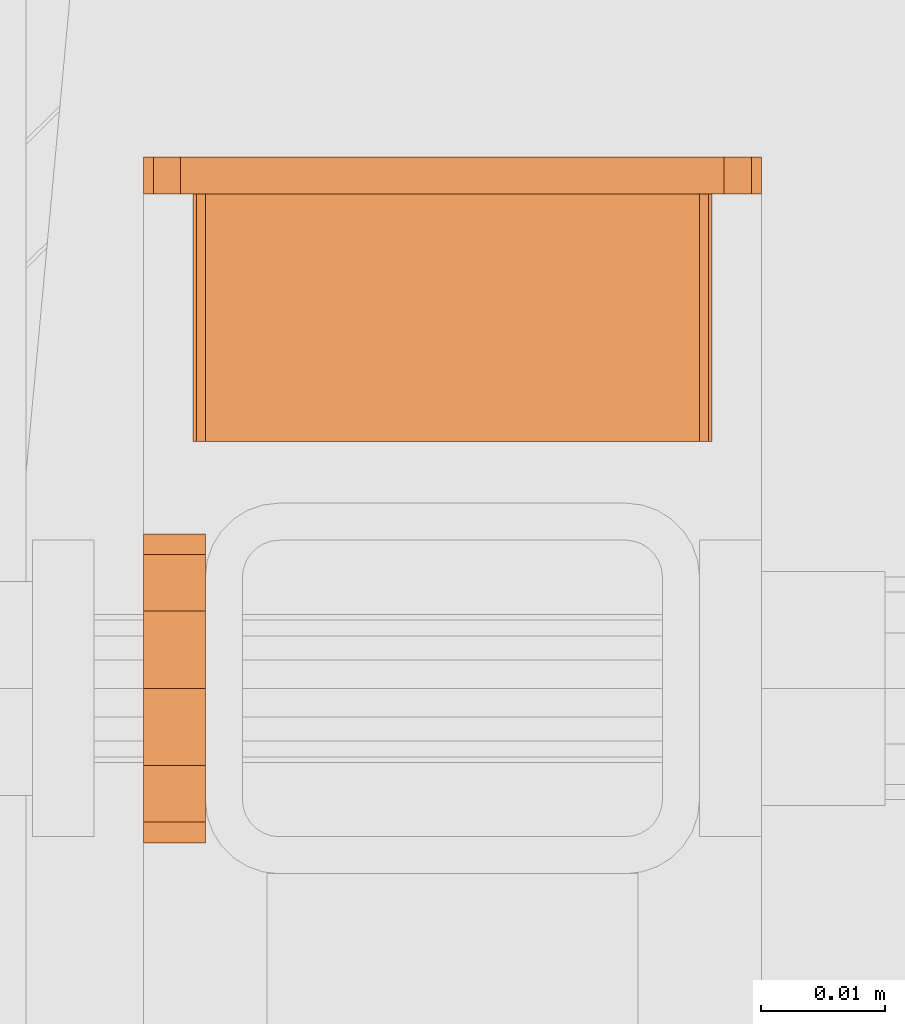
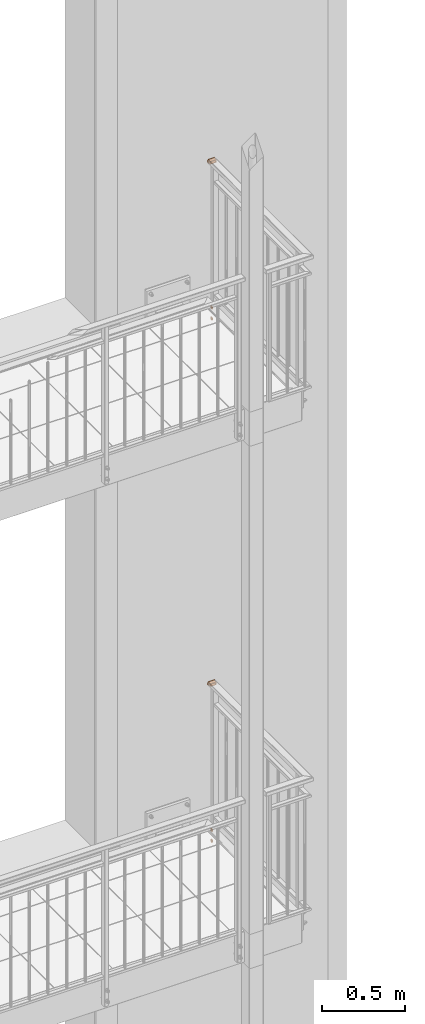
# One storey, part 145 of 162: 6 proxies.
"""IFC2X3 building model written with IfcOpenShell, lengths in millimetres."""

from ifc_helpers import new_model, entity, si_unit, converted_unit, origin_with_axes, place, context, project, spatial, faceted_brep, material, element, save


model = new_model("IFC2X3")

# Units and contexts
model_context = context("Model", 3, precision=1e-09, world=origin_with_axes())
ifc_project = project(units=[si_unit("LENGTHUNIT", "METRE", prefix="MILLI"), si_unit("AREAUNIT", "SQUARE_METRE"), si_unit("VOLUMEUNIT", "CUBIC_METRE"), converted_unit("PLANEANGLEUNIT", "DEGREE", entity("IfcPlaneAngleMeasure", 0.01745329), si_unit("PLANEANGLEUNIT", "RADIAN"), dimensions=[0, 0, 0, 0, 0, 0, 0])], contexts=[model_context])

# Site, building, storey
site_placement = place(None, origin_with_axes())
site = spatial("IfcSite", under=ifc_project, at=site_placement, Name="Hermannstra?e 1a, 60318 Frankfurt", CompositionType="ELEMENT")
building_placement = place(site_placement, origin_with_axes())
building = spatial("IfcBuilding", under=site, at=building_placement, Name="Struktur 1", CompositionType="ELEMENT")
storey_placement = place(building_placement, origin_with_axes())
storey = spatial("IfcBuildingStorey", under=building, at=storey_placement, Name="Default Storey", CompositionType="ELEMENT", Elevation=0.0)

# Proxies
ifc_material = material(Name="Kein")
proxy_1_placement = place(None, origin_with_axes())
element("IfcBuildingElementProxy", 1, at=proxy_1_placement, inside=storey, material=ifc_material, ObjectType="-", context=model_context, shape_type="Brep", body=[
    faceted_brep([(5869.30936482, 2650.609373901, 4949.0), (5869.30936482, 2650.609373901, 4931.0), (5869.30936482, 2670.609373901, 4931.0), (5869.30936482, 2670.609373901, 4949.0), (5869.041415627, 2670.609373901, 4950.0), (5869.041415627, 2650.609373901, 4950.0), (5868.30936482, 2650.609373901, 4950.732050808), (5868.30936482, 2670.609373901, 4950.732050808), (5867.30936482, 2670.609373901, 4951.0), (5867.30936482, 2650.609373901, 4951.0), (5869.041415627, 2650.609373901, 4930.0), (5869.041415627, 2670.609373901, 4930.0), (5868.30936482, 2650.609373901, 4929.267949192), (5868.30936482, 2670.609373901, 4929.267949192), (5829.30936482, 2650.609373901, 4951.0), (5828.30936482, 2650.609373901, 4950.732050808), (5827.577314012, 2650.609373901, 4950.0), (5827.30936482, 2650.609373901, 4949.0), (5827.30936482, 2650.609373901, 4931.0), (5827.577314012, 2650.609373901, 4930.0), (5828.30936482, 2650.609373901, 4929.267949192), (5829.30936482, 2650.609373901, 4929.0), (5867.30936482, 2650.609373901, 4929.0), (5865.30936482, 2650.609373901, 4947.0), (5865.30936482, 2650.609373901, 4933.0), (5831.30936482, 2650.609373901, 4933.0), (5831.30936482, 2650.609373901, 4947.0), (5867.30936482, 2670.609373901, 4929.0), (5829.30936482, 2670.609373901, 4929.0), (5828.30936482, 2670.609373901, 4929.267949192), (5827.577314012, 2670.609373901, 4930.0), (5827.30936482, 2670.609373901, 4931.0), (5827.30936482, 2670.609373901, 4949.0), (5827.577314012, 2670.609373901, 4950.0), (5828.30936482, 2670.609373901, 4950.732050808), (5829.30936482, 2670.609373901, 4951.0), (5865.30936482, 2670.609373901, 4947.0), (5865.30936482, 2670.609373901, 4933.0), (5831.30936482, 2670.609373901, 4933.0), (5831.30936482, 2670.609373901, 4947.0)], [[[0, 1, 2, 3]], [[0, 3, 4, 5]], [[6, 7, 8, 9]], [[5, 4, 7, 6]], [[2, 1, 10, 11]], [[11, 10, 12, 13]], [[5, 6, 9, 14, 15, 16, 17, 18, 19, 20, 21, 22, 12, 10, 1, 0], [23, 24, 25, 26]], [[3, 2, 11, 13, 27, 28, 29, 30, 31, 32, 33, 34, 35, 8, 7, 4]], [[34, 15, 14, 35]], [[14, 9, 8, 35]], [[36, 37, 24, 23]], [[15, 34, 33, 16]], [[13, 12, 22, 27]], [[25, 24, 37, 38]], [[22, 21, 28, 27]], [[28, 21, 20, 29]], [[39, 36, 23, 26]], [[16, 33, 32, 17]], [[29, 20, 19, 30]], [[26, 25, 38, 39]], [[18, 17, 32, 31]], [[30, 19, 18, 31]]]),
    faceted_brep([(5867.30936482, 2670.609373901, 4925.0), (5867.30936482, 2673.609373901, 4925.0), (5870.30936482, 2673.609373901, 4925.803847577), (5870.30936482, 2670.609373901, 4925.803847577), (5872.505517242, 2673.609373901, 4928.0), (5872.505517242, 2670.609373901, 4928.0), (5829.30936482, 2673.609373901, 4925.0), (5829.30936482, 2670.609373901, 4925.0), (5826.30936482, 2670.609373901, 4925.803847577), (5826.30936482, 2673.609373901, 4925.803847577), (5824.113212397, 2670.609373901, 4928.0), (5824.113212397, 2673.609373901, 4928.0), (5873.30936482, 2670.609373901, 4931.0), (5873.30936482, 2670.609373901, 4949.0), (5872.505517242, 2670.609373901, 4952.0), (5870.30936482, 2670.609373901, 4954.196152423), (5867.30936482, 2670.609373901, 4955.0), (5829.30936482, 2670.609373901, 4955.0), (5826.30936482, 2670.609373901, 4954.196152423), (5824.113212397, 2670.609373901, 4952.0), (5823.30936482, 2670.609373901, 4949.0), (5823.30936482, 2670.609373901, 4931.0), (5823.30936482, 2673.609373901, 4931.0), (5823.30936482, 2673.609373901, 4949.0), (5824.113212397, 2673.609373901, 4952.0), (5826.30936482, 2673.609373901, 4954.196152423), (5829.30936482, 2673.609373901, 4955.0), (5867.30936482, 2673.609373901, 4955.0), (5870.30936482, 2673.609373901, 4954.196152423), (5872.505517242, 2673.609373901, 4952.0), (5873.30936482, 2673.609373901, 4949.0), (5873.30936482, 2673.609373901, 4931.0)], [[[0, 1, 2, 3]], [[3, 2, 4, 5]], [[6, 7, 8, 9]], [[9, 8, 10, 11]], [[5, 12, 13, 14, 15, 16, 17, 18, 19, 20, 21, 10, 8, 7, 0, 3]], [[6, 1, 0, 7]], [[11, 22, 23, 24, 25, 26, 27, 28, 29, 30, 31, 4, 2, 1, 6, 9]], [[5, 4, 31, 12]], [[13, 12, 31, 30]], [[11, 10, 21, 22]], [[28, 15, 14, 29]], [[29, 14, 13, 30]], [[15, 28, 27, 16]], [[23, 22, 21, 20]], [[17, 16, 27, 26]], [[23, 20, 19, 24]], [[25, 18, 17, 26]], [[24, 19, 18, 25]]]),
])
proxy_2_placement = place(None, origin_with_axes())
element("IfcBuildingElementProxy", 2, at=proxy_2_placement, inside=storey, material=ifc_material, ObjectType="-", context=model_context, shape_type="Brep", body=[
    faceted_brep([(5828.30936482, 2619.784056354, 3808.75), (5828.30936482, 2624.359373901, 3804.174682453), (5828.30936482, 2630.609373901, 3802.5), (5828.30936482, 2636.859373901, 3804.174682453), (5828.30936482, 2641.434691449, 3808.75), (5828.30936482, 2643.109373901, 3815.0), (5828.30936482, 2641.434691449, 3821.25), (5828.30936482, 2636.859373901, 3825.825317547), (5828.30936482, 2630.609373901, 3827.5), (5828.30936482, 2624.359373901, 3825.825317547), (5828.30936482, 2619.784056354, 3821.25), (5828.30936482, 2618.109373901, 3815.0), (5828.30936482, 2630.609373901, 3809.0), (5828.30936482, 2627.609373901, 3809.803847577), (5828.30936482, 2625.413221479, 3812.0), (5828.30936482, 2624.609373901, 3815.0), (5828.30936482, 2625.413221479, 3818.0), (5828.30936482, 2627.609373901, 3820.196152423), (5828.30936482, 2630.609373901, 3821.0), (5828.30936482, 2633.609373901, 3820.196152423), (5828.30936482, 2635.805526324, 3818.0), (5828.30936482, 2636.609373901, 3815.0), (5828.30936482, 2635.805526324, 3812.0), (5828.30936482, 2633.609373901, 3809.803847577), (5823.30936482, 2619.784056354, 3808.75), (5823.30936482, 2624.359373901, 3804.174682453), (5823.30936482, 2618.109373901, 3815.0), (5823.30936482, 2619.784056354, 3821.25), (5823.30936482, 2624.359373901, 3825.825317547), (5823.30936482, 2630.609373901, 3827.5), (5823.30936482, 2636.859373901, 3825.825317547), (5823.30936482, 2641.434691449, 3821.25), (5823.30936482, 2643.109373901, 3815.0), (5823.30936482, 2641.434691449, 3808.75), (5823.30936482, 2636.859373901, 3804.174682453), (5823.30936482, 2630.609373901, 3802.5), (5823.30936482, 2625.413221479, 3818.0), (5823.30936482, 2624.609373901, 3815.0), (5823.30936482, 2625.413221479, 3812.0), (5823.30936482, 2627.609373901, 3809.803847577), (5823.30936482, 2630.609373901, 3809.0), (5823.30936482, 2633.609373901, 3809.803847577), (5823.30936482, 2635.805526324, 3812.0), (5823.30936482, 2636.609373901, 3815.0), (5823.30936482, 2635.805526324, 3818.0), (5823.30936482, 2633.609373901, 3820.196152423), (5823.30936482, 2630.609373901, 3821.0), (5823.30936482, 2627.609373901, 3820.196152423)], [[[0, 1, 2, 3, 4, 5, 6, 7, 8, 9, 10, 11], [12, 13, 14, 15, 16, 17, 18, 19, 20, 21, 22, 23]], [[0, 24, 25, 1]], [[24, 26, 27, 28, 29, 30, 31, 32, 33, 34, 35, 25], [36, 37, 38, 39, 40, 41, 42, 43, 44, 45, 46, 47]], [[38, 14, 13, 39]], [[24, 0, 11, 26]], [[14, 38, 37, 15]], [[39, 13, 12, 40]], [[1, 25, 35, 2]], [[26, 11, 10, 27]], [[15, 37, 36, 16]], [[40, 12, 23, 41]], [[2, 35, 34, 3]], [[27, 10, 9, 28]], [[16, 36, 47, 17]], [[22, 42, 41, 23]], [[3, 34, 33, 4]], [[42, 22, 21, 43]], [[28, 9, 8, 29]], [[17, 47, 46, 18]], [[20, 44, 43, 21]], [[4, 33, 32, 5]], [[45, 19, 18, 46]], [[44, 20, 19, 45]], [[29, 8, 7, 30]], [[5, 32, 31, 6]], [[30, 7, 6, 31]]]),
])
proxy_3_placement = place(None, origin_with_axes())
element("IfcBuildingElementProxy", 3, at=proxy_3_placement, inside=storey, material=ifc_material, ObjectType="-", context=model_context, shape_type="Brep", body=[
    faceted_brep([(5828.30936482, 2619.784056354, 3888.75), (5828.30936482, 2624.359373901, 3884.174682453), (5828.30936482, 2630.609373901, 3882.5), (5828.30936482, 2636.859373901, 3884.174682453), (5828.30936482, 2641.434691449, 3888.75), (5828.30936482, 2643.109373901, 3895.0), (5828.30936482, 2641.434691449, 3901.25), (5828.30936482, 2636.859373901, 3905.825317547), (5828.30936482, 2630.609373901, 3907.5), (5828.30936482, 2624.359373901, 3905.825317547), (5828.30936482, 2619.784056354, 3901.25), (5828.30936482, 2618.109373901, 3895.0), (5828.30936482, 2630.609373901, 3889.0), (5828.30936482, 2627.609373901, 3889.803847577), (5828.30936482, 2625.413221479, 3892.0), (5828.30936482, 2624.609373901, 3895.0), (5828.30936482, 2625.413221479, 3898.0), (5828.30936482, 2627.609373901, 3900.196152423), (5828.30936482, 2630.609373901, 3901.0), (5828.30936482, 2633.609373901, 3900.196152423), (5828.30936482, 2635.805526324, 3898.0), (5828.30936482, 2636.609373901, 3895.0), (5828.30936482, 2635.805526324, 3892.0), (5828.30936482, 2633.609373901, 3889.803847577), (5823.30936482, 2619.784056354, 3888.75), (5823.30936482, 2624.359373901, 3884.174682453), (5823.30936482, 2618.109373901, 3895.0), (5823.30936482, 2619.784056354, 3901.25), (5823.30936482, 2624.359373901, 3905.825317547), (5823.30936482, 2630.609373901, 3907.5), (5823.30936482, 2636.859373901, 3905.825317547), (5823.30936482, 2641.434691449, 3901.25), (5823.30936482, 2643.109373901, 3895.0), (5823.30936482, 2641.434691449, 3888.75), (5823.30936482, 2636.859373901, 3884.174682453), (5823.30936482, 2630.609373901, 3882.5), (5823.30936482, 2625.413221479, 3898.0), (5823.30936482, 2624.609373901, 3895.0), (5823.30936482, 2625.413221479, 3892.0), (5823.30936482, 2627.609373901, 3889.803847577), (5823.30936482, 2630.609373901, 3889.0), (5823.30936482, 2633.609373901, 3889.803847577), (5823.30936482, 2635.805526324, 3892.0), (5823.30936482, 2636.609373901, 3895.0), (5823.30936482, 2635.805526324, 3898.0), (5823.30936482, 2633.609373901, 3900.196152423), (5823.30936482, 2630.609373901, 3901.0), (5823.30936482, 2627.609373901, 3900.196152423)], [[[0, 1, 2, 3, 4, 5, 6, 7, 8, 9, 10, 11], [12, 13, 14, 15, 16, 17, 18, 19, 20, 21, 22, 23]], [[0, 24, 25, 1]], [[24, 26, 27, 28, 29, 30, 31, 32, 33, 34, 35, 25], [36, 37, 38, 39, 40, 41, 42, 43, 44, 45, 46, 47]], [[38, 14, 13, 39]], [[24, 0, 11, 26]], [[14, 38, 37, 15]], [[39, 13, 12, 40]], [[1, 25, 35, 2]], [[26, 11, 10, 27]], [[15, 37, 36, 16]], [[40, 12, 23, 41]], [[2, 35, 34, 3]], [[27, 10, 9, 28]], [[16, 36, 47, 17]], [[22, 42, 41, 23]], [[3, 34, 33, 4]], [[42, 22, 21, 43]], [[28, 9, 8, 29]], [[17, 47, 46, 18]], [[20, 44, 43, 21]], [[4, 33, 32, 5]], [[45, 19, 18, 46]], [[44, 20, 19, 45]], [[29, 8, 7, 30]], [[5, 32, 31, 6]], [[30, 7, 6, 31]]]),
])
proxy_4_placement = place(None, origin_with_axes())
element("IfcBuildingElementProxy", 4, at=proxy_4_placement, inside=storey, material=ifc_material, ObjectType="-", context=model_context, shape_type="Brep", body=[
    faceted_brep([(5828.30936482, 2619.784056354, 7713.75), (5828.30936482, 2624.359373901, 7709.174682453), (5828.30936482, 2630.609373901, 7707.5), (5828.30936482, 2636.859373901, 7709.174682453), (5828.30936482, 2641.434691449, 7713.75), (5828.30936482, 2643.109373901, 7720.0), (5828.30936482, 2641.434691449, 7726.25), (5828.30936482, 2636.859373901, 7730.825317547), (5828.30936482, 2630.609373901, 7732.5), (5828.30936482, 2624.359373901, 7730.825317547), (5828.30936482, 2619.784056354, 7726.25), (5828.30936482, 2618.109373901, 7720.0), (5828.30936482, 2630.609373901, 7714.0), (5828.30936482, 2627.609373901, 7714.803847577), (5828.30936482, 2625.413221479, 7717.0), (5828.30936482, 2624.609373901, 7720.0), (5828.30936482, 2625.413221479, 7723.0), (5828.30936482, 2627.609373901, 7725.196152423), (5828.30936482, 2630.609373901, 7726.0), (5828.30936482, 2633.609373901, 7725.196152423), (5828.30936482, 2635.805526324, 7723.0), (5828.30936482, 2636.609373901, 7720.0), (5828.30936482, 2635.805526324, 7717.0), (5828.30936482, 2633.609373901, 7714.803847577), (5823.30936482, 2619.784056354, 7713.75), (5823.30936482, 2624.359373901, 7709.174682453), (5823.30936482, 2618.109373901, 7720.0), (5823.30936482, 2619.784056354, 7726.25), (5823.30936482, 2624.359373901, 7730.825317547), (5823.30936482, 2630.609373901, 7732.5), (5823.30936482, 2636.859373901, 7730.825317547), (5823.30936482, 2641.434691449, 7726.25), (5823.30936482, 2643.109373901, 7720.0), (5823.30936482, 2641.434691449, 7713.75), (5823.30936482, 2636.859373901, 7709.174682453), (5823.30936482, 2630.609373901, 7707.5), (5823.30936482, 2625.413221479, 7723.0), (5823.30936482, 2624.609373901, 7720.0), (5823.30936482, 2625.413221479, 7717.0), (5823.30936482, 2627.609373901, 7714.803847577), (5823.30936482, 2630.609373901, 7714.0), (5823.30936482, 2633.609373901, 7714.803847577), (5823.30936482, 2635.805526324, 7717.0), (5823.30936482, 2636.609373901, 7720.0), (5823.30936482, 2635.805526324, 7723.0), (5823.30936482, 2633.609373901, 7725.196152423), (5823.30936482, 2630.609373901, 7726.0), (5823.30936482, 2627.609373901, 7725.196152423)], [[[0, 1, 2, 3, 4, 5, 6, 7, 8, 9, 10, 11], [12, 13, 14, 15, 16, 17, 18, 19, 20, 21, 22, 23]], [[0, 24, 25, 1]], [[24, 26, 27, 28, 29, 30, 31, 32, 33, 34, 35, 25], [36, 37, 38, 39, 40, 41, 42, 43, 44, 45, 46, 47]], [[38, 14, 13, 39]], [[24, 0, 11, 26]], [[14, 38, 37, 15]], [[39, 13, 12, 40]], [[1, 25, 35, 2]], [[26, 11, 10, 27]], [[15, 37, 36, 16]], [[40, 12, 23, 41]], [[2, 35, 34, 3]], [[27, 10, 9, 28]], [[16, 36, 47, 17]], [[22, 42, 41, 23]], [[3, 34, 33, 4]], [[42, 22, 21, 43]], [[28, 9, 8, 29]], [[17, 47, 46, 18]], [[20, 44, 43, 21]], [[4, 33, 32, 5]], [[45, 19, 18, 46]], [[44, 20, 19, 45]], [[29, 8, 7, 30]], [[5, 32, 31, 6]], [[30, 7, 6, 31]]]),
])
proxy_5_placement = place(None, origin_with_axes())
element("IfcBuildingElementProxy", 5, at=proxy_5_placement, inside=storey, material=ifc_material, ObjectType="-", context=model_context, shape_type="Brep", body=[
    faceted_brep([(5828.30936482, 2619.784056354, 7633.75), (5828.30936482, 2624.359373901, 7629.174682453), (5828.30936482, 2630.609373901, 7627.5), (5828.30936482, 2636.859373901, 7629.174682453), (5828.30936482, 2641.434691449, 7633.75), (5828.30936482, 2643.109373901, 7640.0), (5828.30936482, 2641.434691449, 7646.25), (5828.30936482, 2636.859373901, 7650.825317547), (5828.30936482, 2630.609373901, 7652.5), (5828.30936482, 2624.359373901, 7650.825317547), (5828.30936482, 2619.784056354, 7646.25), (5828.30936482, 2618.109373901, 7640.0), (5828.30936482, 2630.609373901, 7634.0), (5828.30936482, 2627.609373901, 7634.803847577), (5828.30936482, 2625.413221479, 7637.0), (5828.30936482, 2624.609373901, 7640.0), (5828.30936482, 2625.413221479, 7643.0), (5828.30936482, 2627.609373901, 7645.196152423), (5828.30936482, 2630.609373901, 7646.0), (5828.30936482, 2633.609373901, 7645.196152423), (5828.30936482, 2635.805526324, 7643.0), (5828.30936482, 2636.609373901, 7640.0), (5828.30936482, 2635.805526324, 7637.0), (5828.30936482, 2633.609373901, 7634.803847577), (5823.30936482, 2619.784056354, 7633.75), (5823.30936482, 2624.359373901, 7629.174682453), (5823.30936482, 2618.109373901, 7640.0), (5823.30936482, 2619.784056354, 7646.25), (5823.30936482, 2624.359373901, 7650.825317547), (5823.30936482, 2630.609373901, 7652.5), (5823.30936482, 2636.859373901, 7650.825317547), (5823.30936482, 2641.434691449, 7646.25), (5823.30936482, 2643.109373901, 7640.0), (5823.30936482, 2641.434691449, 7633.75), (5823.30936482, 2636.859373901, 7629.174682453), (5823.30936482, 2630.609373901, 7627.5), (5823.30936482, 2625.413221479, 7643.0), (5823.30936482, 2624.609373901, 7640.0), (5823.30936482, 2625.413221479, 7637.0), (5823.30936482, 2627.609373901, 7634.803847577), (5823.30936482, 2630.609373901, 7634.0), (5823.30936482, 2633.609373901, 7634.803847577), (5823.30936482, 2635.805526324, 7637.0), (5823.30936482, 2636.609373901, 7640.0), (5823.30936482, 2635.805526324, 7643.0), (5823.30936482, 2633.609373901, 7645.196152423), (5823.30936482, 2630.609373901, 7646.0), (5823.30936482, 2627.609373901, 7645.196152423)], [[[0, 1, 2, 3, 4, 5, 6, 7, 8, 9, 10, 11], [12, 13, 14, 15, 16, 17, 18, 19, 20, 21, 22, 23]], [[0, 24, 25, 1]], [[24, 26, 27, 28, 29, 30, 31, 32, 33, 34, 35, 25], [36, 37, 38, 39, 40, 41, 42, 43, 44, 45, 46, 47]], [[38, 14, 13, 39]], [[24, 0, 11, 26]], [[14, 38, 37, 15]], [[39, 13, 12, 40]], [[1, 25, 35, 2]], [[26, 11, 10, 27]], [[15, 37, 36, 16]], [[40, 12, 23, 41]], [[2, 35, 34, 3]], [[27, 10, 9, 28]], [[16, 36, 47, 17]], [[22, 42, 41, 23]], [[3, 34, 33, 4]], [[42, 22, 21, 43]], [[28, 9, 8, 29]], [[17, 47, 46, 18]], [[20, 44, 43, 21]], [[4, 33, 32, 5]], [[45, 19, 18, 46]], [[44, 20, 19, 45]], [[29, 8, 7, 30]], [[5, 32, 31, 6]], [[30, 7, 6, 31]]]),
])
proxy_6_placement = place(None, origin_with_axes())
element("IfcBuildingElementProxy", 6, at=proxy_6_placement, inside=storey, material=ifc_material, ObjectType="-", context=model_context, shape_type="Brep", body=[
    faceted_brep([(5869.30936482, 2650.609373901, 8774.0), (5869.30936482, 2650.609373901, 8756.0), (5869.30936482, 2670.609373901, 8756.0), (5869.30936482, 2670.609373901, 8774.0), (5869.041415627, 2670.609373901, 8775.0), (5869.041415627, 2650.609373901, 8775.0), (5868.30936482, 2650.609373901, 8775.732050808), (5868.30936482, 2670.609373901, 8775.732050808), (5867.30936482, 2670.609373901, 8776.0), (5867.30936482, 2650.609373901, 8776.0), (5869.041415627, 2650.609373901, 8755.0), (5869.041415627, 2670.609373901, 8755.0), (5868.30936482, 2650.609373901, 8754.267949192), (5868.30936482, 2670.609373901, 8754.267949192), (5829.30936482, 2650.609373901, 8776.0), (5828.30936482, 2650.609373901, 8775.732050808), (5827.577314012, 2650.609373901, 8775.0), (5827.30936482, 2650.609373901, 8774.0), (5827.30936482, 2650.609373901, 8756.0), (5827.577314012, 2650.609373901, 8755.0), (5828.30936482, 2650.609373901, 8754.267949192), (5829.30936482, 2650.609373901, 8754.0), (5867.30936482, 2650.609373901, 8754.0), (5865.30936482, 2650.609373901, 8772.0), (5865.30936482, 2650.609373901, 8758.0), (5831.30936482, 2650.609373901, 8758.0), (5831.30936482, 2650.609373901, 8772.0), (5867.30936482, 2670.609373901, 8754.0), (5829.30936482, 2670.609373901, 8754.0), (5828.30936482, 2670.609373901, 8754.267949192), (5827.577314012, 2670.609373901, 8755.0), (5827.30936482, 2670.609373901, 8756.0), (5827.30936482, 2670.609373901, 8774.0), (5827.577314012, 2670.609373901, 8775.0), (5828.30936482, 2670.609373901, 8775.732050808), (5829.30936482, 2670.609373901, 8776.0), (5865.30936482, 2670.609373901, 8772.0), (5865.30936482, 2670.609373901, 8758.0), (5831.30936482, 2670.609373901, 8758.0), (5831.30936482, 2670.609373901, 8772.0)], [[[0, 1, 2, 3]], [[0, 3, 4, 5]], [[6, 7, 8, 9]], [[5, 4, 7, 6]], [[2, 1, 10, 11]], [[11, 10, 12, 13]], [[5, 6, 9, 14, 15, 16, 17, 18, 19, 20, 21, 22, 12, 10, 1, 0], [23, 24, 25, 26]], [[3, 2, 11, 13, 27, 28, 29, 30, 31, 32, 33, 34, 35, 8, 7, 4]], [[34, 15, 14, 35]], [[14, 9, 8, 35]], [[36, 37, 24, 23]], [[15, 34, 33, 16]], [[13, 12, 22, 27]], [[25, 24, 37, 38]], [[22, 21, 28, 27]], [[28, 21, 20, 29]], [[39, 36, 23, 26]], [[16, 33, 32, 17]], [[29, 20, 19, 30]], [[26, 25, 38, 39]], [[18, 17, 32, 31]], [[30, 19, 18, 31]]]),
    faceted_brep([(5867.30936482, 2670.609373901, 8750.0), (5867.30936482, 2673.609373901, 8750.0), (5870.30936482, 2673.609373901, 8750.803847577), (5870.30936482, 2670.609373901, 8750.803847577), (5872.505517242, 2673.609373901, 8753.0), (5872.505517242, 2670.609373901, 8753.0), (5829.30936482, 2673.609373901, 8750.0), (5829.30936482, 2670.609373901, 8750.0), (5826.30936482, 2670.609373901, 8750.803847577), (5826.30936482, 2673.609373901, 8750.803847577), (5824.113212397, 2670.609373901, 8753.0), (5824.113212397, 2673.609373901, 8753.0), (5873.30936482, 2670.609373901, 8756.0), (5873.30936482, 2670.609373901, 8774.0), (5872.505517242, 2670.609373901, 8777.0), (5870.30936482, 2670.609373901, 8779.196152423), (5867.30936482, 2670.609373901, 8780.0), (5829.30936482, 2670.609373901, 8780.0), (5826.30936482, 2670.609373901, 8779.196152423), (5824.113212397, 2670.609373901, 8777.0), (5823.30936482, 2670.609373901, 8774.0), (5823.30936482, 2670.609373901, 8756.0), (5823.30936482, 2673.609373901, 8756.0), (5823.30936482, 2673.609373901, 8774.0), (5824.113212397, 2673.609373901, 8777.0), (5826.30936482, 2673.609373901, 8779.196152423), (5829.30936482, 2673.609373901, 8780.0), (5867.30936482, 2673.609373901, 8780.0), (5870.30936482, 2673.609373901, 8779.196152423), (5872.505517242, 2673.609373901, 8777.0), (5873.30936482, 2673.609373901, 8774.0), (5873.30936482, 2673.609373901, 8756.0)], [[[0, 1, 2, 3]], [[3, 2, 4, 5]], [[6, 7, 8, 9]], [[9, 8, 10, 11]], [[5, 12, 13, 14, 15, 16, 17, 18, 19, 20, 21, 10, 8, 7, 0, 3]], [[6, 1, 0, 7]], [[11, 22, 23, 24, 25, 26, 27, 28, 29, 30, 31, 4, 2, 1, 6, 9]], [[5, 4, 31, 12]], [[13, 12, 31, 30]], [[11, 10, 21, 22]], [[28, 15, 14, 29]], [[29, 14, 13, 30]], [[15, 28, 27, 16]], [[23, 22, 21, 20]], [[17, 16, 27, 26]], [[23, 20, 19, 24]], [[25, 18, 17, 26]], [[24, 19, 18, 25]]]),
])

save(model, "model.ifc")
